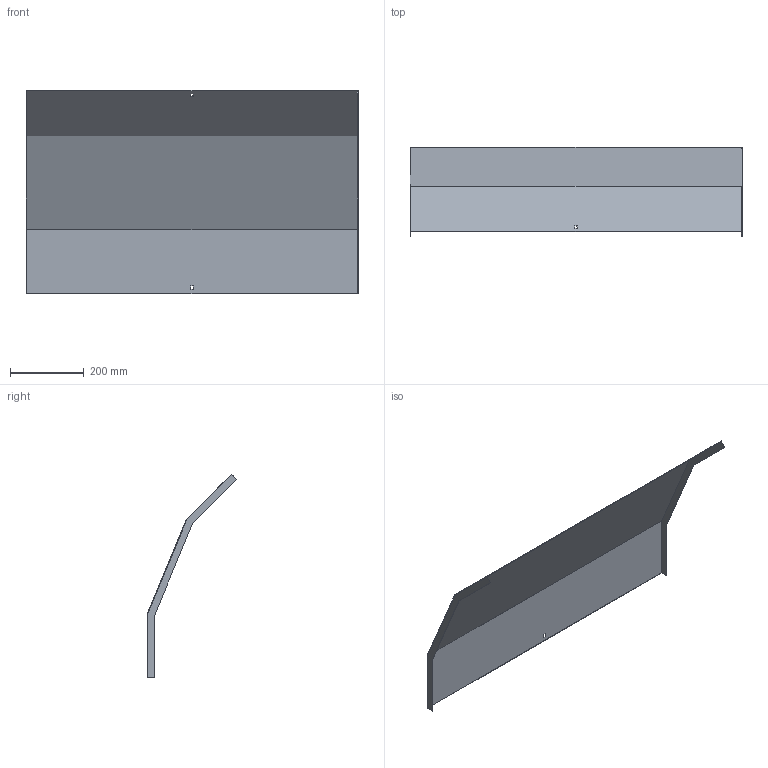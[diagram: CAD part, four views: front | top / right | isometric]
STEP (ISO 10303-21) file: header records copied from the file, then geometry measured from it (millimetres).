
FILE_DESCRIPTION (( 'STEP AP214' ), '1' );
FILE_NAME ('A2_34N3D900.step', '2025-02-21T10:35:10', ( '' ), ( '' ), 'SwSTEP 2.0', 'SolidWorks 2023', '' );
FILE_SCHEMA (( 'AUTOMOTIVE_DESIGN' ));
Length unit declared in the file: millimetre
Products named in the file (1): A2_34N3D900
Bounding box: 903 x 243.15 x 552.87 mm (x, y, z)
Volume: 879668.8 mm3; surface area: 1177633.6 mm2
Topology: 1 solids, 1 shells, 26 faces, 72 edges, 48 vertices
Faces by surface type: plane 26
Entity records: 847 total; most frequent: CARTESIAN_POINT 147, ORIENTED_EDGE 144, DIRECTION 126, LINE 72, VECTOR 72, EDGE_CURVE 72, VERTEX_POINT 48, EDGE_LOOP 30
